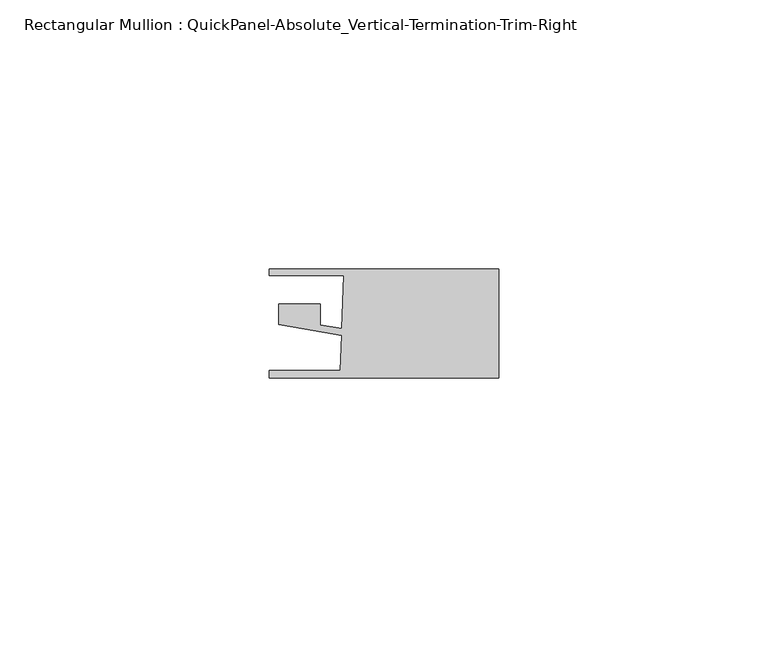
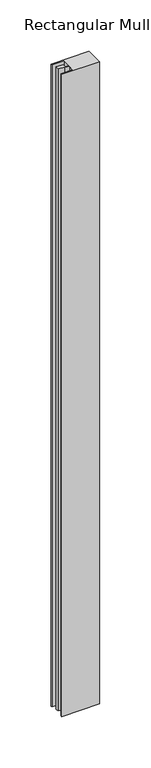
"""IFC4 building model written with IfcOpenShell, lengths in millimetres: member geometry, Rectangular Mullion : QuickPanel-Absolute_Vertical-Termination-Trim-Right."""

from ifc_helpers import new_model, si_unit, frame, origin, place, context, project, spatial, polyline, outline, extrude, source, transform, mapped, element, save


def rectangular_mullion_quickpanel_absolute_vertical_termination_ddd3165f(model_context):
    return source(origin(), model_context, "Body", "SweptSolid", [
        extrude(outline(polyline([(-42.7011763, -8.095605), (-42.7011763, -6.6935423), (-29.4602636, -6.6935423), (-29.2334784, -0.1992641), (-34.4837593, 0.7008023), (-40.919092, 1.8040245), (-40.919092, 5.6493034), (-33.1743189, 5.6493034), (-33.1743189, 1.7648465), (-29.1887499, 1.0815922), (-28.8448229, 10.9303752), (-42.7011763, 10.9303752), (-42.7011763, 12.1803727), (0.0, 12.1803727), (0.0, -8.095605), (-42.7011763, -8.095605)])), frame((0.0, 0.0, -762.0), z_axis=(0.0, 0.0, 1.0), x_axis=(1.0, 0.0, 0.0)), (0.0, 0.0, 1.0), 762.0),
    ])


if __name__ == "__main__":
    model = new_model("IFC4")
    model_context = context("Model", 3, world=origin())
    ifc_project = project(units=[si_unit("LENGTHUNIT", "METRE", prefix="MILLI")], contexts=[model_context])
    site = spatial("IfcSite", under=ifc_project)
    building = spatial("IfcBuilding", under=site)
    placement = place(None, origin())
    rectangular_mullion_quickpanel_absolute_vertical_termination_shape = rectangular_mullion_quickpanel_absolute_vertical_termination_ddd3165f(model_context)
    element("IfcMember", 1, ObjectType="Rectangular Mullion : QuickPanel-Absolute_Vertical-Termination-Trim-Right", at=placement, inside=building, context=model_context, shape_type="MappedRepresentation", body=[
        mapped(rectangular_mullion_quickpanel_absolute_vertical_termination_shape, transform((0.0, 0.0, 0.0), x_axis=(1.0, 0.0, 0.0), y_axis=(0.0, 1.0, 0.0), z_axis=(0.0, 0.0, 1.0))),
    ])
    save(model, "model.ifc")
